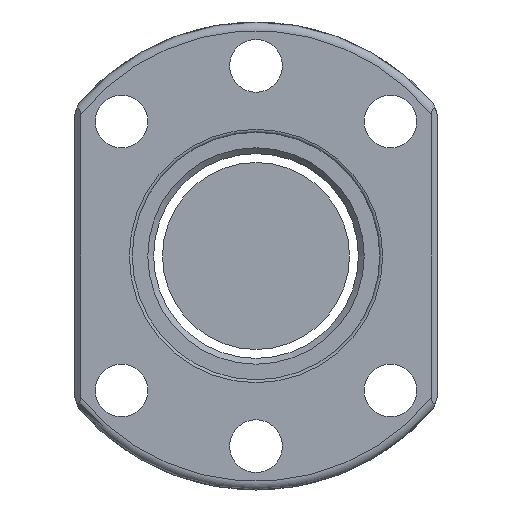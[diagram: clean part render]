
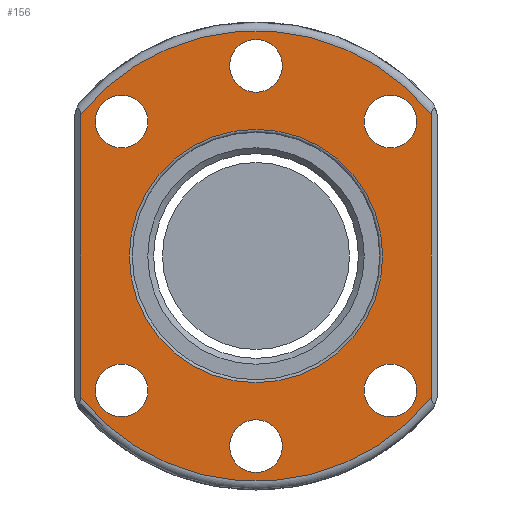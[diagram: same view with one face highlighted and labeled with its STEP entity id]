
A CAD part, front view. The second image highlights one B-rep face of the part: STEP entity #156.
In plain terms, the highlighted planar face has unit normal (0, -1, 0).
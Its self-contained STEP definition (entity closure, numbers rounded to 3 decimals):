
#50=LINE('',#942,#74);
#51=LINE('',#946,#75);
#74=VECTOR('',#770,1.);
#75=VECTOR('',#773,1.);
#120=PLANE('',#674);
#156=ADVANCED_FACE('',(#214,#215,#216,#217,#218,#219,#220,#221),#120,.T.);
#214=FACE_BOUND('',#270,.T.);
#215=FACE_BOUND('',#271,.T.);
#216=FACE_BOUND('',#272,.T.);
#217=FACE_BOUND('',#273,.T.);
#218=FACE_BOUND('',#274,.T.);
#219=FACE_BOUND('',#275,.T.);
#220=FACE_BOUND('',#276,.T.);
#221=FACE_BOUND('',#277,.T.);
#270=EDGE_LOOP('',(#345));
#271=EDGE_LOOP('',(#346));
#272=EDGE_LOOP('',(#347));
#273=EDGE_LOOP('',(#348));
#274=EDGE_LOOP('',(#349));
#275=EDGE_LOOP('',(#350,#351,#352,#353));
#276=EDGE_LOOP('',(#354));
#277=EDGE_LOOP('',(#355));
#345=ORIENTED_EDGE('',*,*,#552,.T.);
#346=ORIENTED_EDGE('',*,*,#553,.F.);
#347=ORIENTED_EDGE('',*,*,#554,.F.);
#348=ORIENTED_EDGE('',*,*,#555,.F.);
#349=ORIENTED_EDGE('',*,*,#556,.T.);
#350=ORIENTED_EDGE('',*,*,#557,.T.);
#351=ORIENTED_EDGE('',*,*,#558,.T.);
#352=ORIENTED_EDGE('',*,*,#559,.T.);
#353=ORIENTED_EDGE('',*,*,#560,.T.);
#354=ORIENTED_EDGE('',*,*,#561,.T.);
#355=ORIENTED_EDGE('',*,*,#562,.T.);
#493=VERTEX_POINT('',#930);
#494=VERTEX_POINT('',#932);
#495=VERTEX_POINT('',#934);
#496=VERTEX_POINT('',#936);
#497=VERTEX_POINT('',#938);
#498=VERTEX_POINT('',#940);
#499=VERTEX_POINT('',#941);
#500=VERTEX_POINT('',#943);
#501=VERTEX_POINT('',#945);
#502=VERTEX_POINT('',#948);
#503=VERTEX_POINT('',#950);
#552=EDGE_CURVE('',#493,#493,#625,.T.);
#553=EDGE_CURVE('',#494,#494,#626,.T.);
#554=EDGE_CURVE('',#495,#495,#627,.T.);
#555=EDGE_CURVE('',#496,#496,#628,.T.);
#556=EDGE_CURVE('',#497,#497,#629,.T.);
#557=EDGE_CURVE('',#498,#499,#630,.T.);
#558=EDGE_CURVE('',#499,#500,#50,.T.);
#559=EDGE_CURVE('',#500,#501,#631,.T.);
#560=EDGE_CURVE('',#501,#498,#51,.T.);
#561=EDGE_CURVE('',#502,#502,#632,.T.);
#562=EDGE_CURVE('',#503,#503,#633,.T.);
#625=CIRCLE('',#665,4.5);
#626=CIRCLE('',#666,4.5);
#627=CIRCLE('',#667,4.5);
#628=CIRCLE('',#668,4.5);
#629=CIRCLE('',#669,21.65);
#630=CIRCLE('',#670,38.5);
#631=CIRCLE('',#671,38.5);
#632=CIRCLE('',#672,4.5);
#633=CIRCLE('',#673,4.5);
#665=AXIS2_PLACEMENT_3D('',#929,#758,#759);
#666=AXIS2_PLACEMENT_3D('',#931,#760,#761);
#667=AXIS2_PLACEMENT_3D('',#933,#762,#763);
#668=AXIS2_PLACEMENT_3D('',#935,#764,#765);
#669=AXIS2_PLACEMENT_3D('',#937,#766,#767);
#670=AXIS2_PLACEMENT_3D('',#939,#768,#769);
#671=AXIS2_PLACEMENT_3D('',#944,#771,#772);
#672=AXIS2_PLACEMENT_3D('',#947,#774,#775);
#673=AXIS2_PLACEMENT_3D('',#949,#776,#777);
#674=AXIS2_PLACEMENT_3D('',#951,#778,#779);
#758=DIRECTION('',(0.,1.,0.));
#759=DIRECTION('',(1.,0.,0.));
#760=DIRECTION('',(0.,-1.,0.));
#761=DIRECTION('',(1.,0.,0.));
#762=DIRECTION('',(0.,-1.,0.));
#763=DIRECTION('',(1.,0.,0.));
#764=DIRECTION('',(0.,-1.,0.));
#765=DIRECTION('',(1.,0.,0.));
#766=DIRECTION('',(0.,1.,0.));
#767=DIRECTION('',(0.,0.,-1.));
#768=DIRECTION('',(0.,-1.,0.));
#769=DIRECTION('',(0.,0.,-1.));
#770=DIRECTION('',(0.,0.,1.));
#771=DIRECTION('',(0.,-1.,0.));
#772=DIRECTION('',(0.,0.,-1.));
#773=DIRECTION('',(0.,0.,-1.));
#774=DIRECTION('',(0.,1.,0.));
#775=DIRECTION('',(1.,0.,0.));
#776=DIRECTION('',(0.,1.,0.));
#777=DIRECTION('',(1.,0.,0.));
#778=DIRECTION('',(0.,-1.,0.));
#779=DIRECTION('',(0.,0.,-1.));
#929=CARTESIAN_POINT('',(22.981,0.,-22.981));
#930=CARTESIAN_POINT('',(27.481,0.,-22.981));
#931=CARTESIAN_POINT('',(22.981,0.,22.981));
#932=CARTESIAN_POINT('',(27.481,0.,22.981));
#933=CARTESIAN_POINT('',(-22.981,0.,22.981));
#934=CARTESIAN_POINT('',(-18.481,0.,22.981));
#935=CARTESIAN_POINT('',(0.,0.,32.5));
#936=CARTESIAN_POINT('',(4.5,0.,32.5));
#937=CARTESIAN_POINT('',(0.,0.,0.));
#938=CARTESIAN_POINT('',(0.,0.,-21.65));
#939=CARTESIAN_POINT('',(0.,0.,0.));
#940=CARTESIAN_POINT('',(-30.,0.,-24.13));
#941=CARTESIAN_POINT('',(30.,0.,-24.13));
#942=CARTESIAN_POINT('',(30.,0.,22.831));
#943=CARTESIAN_POINT('',(30.,0.,24.13));
#944=CARTESIAN_POINT('',(0.,0.,0.));
#945=CARTESIAN_POINT('',(-30.,0.,24.13));
#946=CARTESIAN_POINT('',(-30.,0.,-22.831));
#947=CARTESIAN_POINT('',(0.,0.,-32.5));
#948=CARTESIAN_POINT('',(4.5,0.,-32.5));
#949=CARTESIAN_POINT('',(-22.981,0.,-22.981));
#950=CARTESIAN_POINT('',(-18.481,0.,-22.981));
#951=CARTESIAN_POINT('',(0.,0.,0.));
